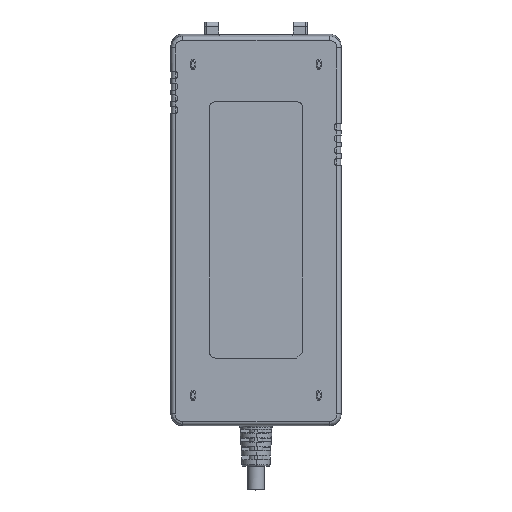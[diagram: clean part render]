
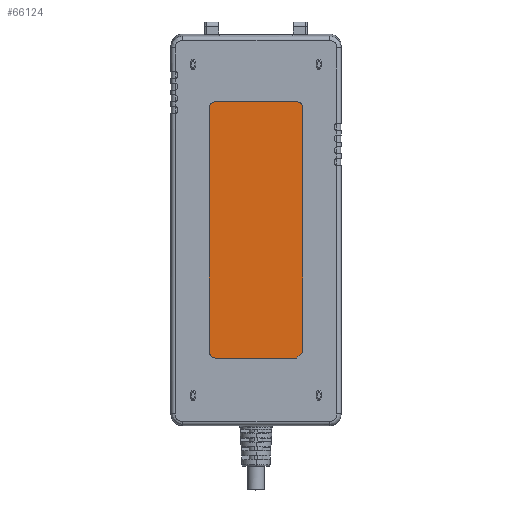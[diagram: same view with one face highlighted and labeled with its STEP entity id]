
A CAD part, top view. The second image highlights one B-rep face of the part: STEP entity #66124.
In plain terms, the highlighted free-form (B-spline) face has degree [1, 1] with [2, 2] control points.
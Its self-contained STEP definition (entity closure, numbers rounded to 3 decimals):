
#141 = ORIENTED_EDGE ( 'NONE', *, *, #94715, .T. ) ;
#2567 = ORIENTED_EDGE ( 'NONE', *, *, #32899, .T. ) ;
#3544 = B_SPLINE_SURFACE_WITH_KNOTS ( 'NONE', 1, 1, ( 
 ( #46267, #30093 ),
 ( #63555, #5055 ) ),
 .UNSPECIFIED., .F., .F., .F.,
 ( 2, 2 ),
 ( 2, 2 ),
 ( 0., 1. ),
 ( 0., 1. ),
 .UNSPECIFIED. ) ;
#5055 = CARTESIAN_POINT ( 'NONE',  ( 20., 71., 17.146 ) ) ;
#5520 = VERTEX_POINT ( 'NONE', #56644 ) ;
#6519 = VERTEX_POINT ( 'NONE', #9958 ) ;
#6527 = CARTESIAN_POINT ( 'NONE',  ( 17.5, 71., 17.146 ) ) ;
#9222 = B_SPLINE_CURVE_WITH_KNOTS ( 'NONE', 1,
 ( #13902, #62415 ),
 .UNSPECIFIED., .F., .F.,
 ( 2, 2 ),
 ( 0., 1. ),
 .UNSPECIFIED. ) ;
#9958 = CARTESIAN_POINT ( 'NONE',  ( -17.5, 71., 17.146 ) ) ;
#10262 = CARTESIAN_POINT ( 'NONE',  ( -20., -37.965, 17.146 ) ) ;
#13067 = CARTESIAN_POINT ( 'NONE',  ( 20., 68.5, 17.146 ) ) ;
#13902 = CARTESIAN_POINT ( 'NONE',  ( -17.5, -39., 17.146 ) ) ;
#17179 = CARTESIAN_POINT ( 'NONE',  ( -20., -36.5, 17.146 ) ) ;
#19029 = CARTESIAN_POINT ( 'NONE',  ( -20., 68.5, 17.146 ) ) ;
#19351 = B_SPLINE_CURVE_WITH_KNOTS ( 'NONE', 1,
 ( #25984, #86749 ),
 .UNSPECIFIED., .F., .F.,
 ( 2, 2 ),
 ( 0., 1. ),
 .UNSPECIFIED. ) ;
#19723 = CARTESIAN_POINT ( 'NONE',  ( 20., 68.5, 17.146 ) ) ;
#20266 = CARTESIAN_POINT ( 'NONE',  ( 18.965, 71., 17.146 ) ) ;
#20439 =( BOUNDED_CURVE ( )  B_SPLINE_CURVE ( 3, ( #62651, #20266, #96672, #19723 ),
 .UNSPECIFIED., .F., .F. ) 
 B_SPLINE_CURVE_WITH_KNOTS ( ( 4, 4 ),
 ( -1.571, 0. ),
 .UNSPECIFIED. ) 
 CURVE ( )  GEOMETRIC_REPRESENTATION_ITEM ( )  RATIONAL_B_SPLINE_CURVE ( ( 1., 0.805, 0.805, 1. ) ) 
 REPRESENTATION_ITEM ( '' )  );
#21304 = CARTESIAN_POINT ( 'NONE',  ( 20., -36.5, 17.146 ) ) ;
#23301 = EDGE_CURVE ( 'NONE', #5520, #100818, #79024, .T. ) ;
#24743 = EDGE_CURVE ( 'NONE', #39677, #6519, #56244, .T. ) ;
#25984 = CARTESIAN_POINT ( 'NONE',  ( 20., -36.5, 17.146 ) ) ;
#28481 = VERTEX_POINT ( 'NONE', #55826 ) ;
#30093 = CARTESIAN_POINT ( 'NONE',  ( -20., 71., 17.146 ) ) ;
#31245 = EDGE_LOOP ( 'NONE', ( #2567, #66689, #86247, #96890, #141, #97472, #54138, #37541 ) ) ;
#32899 = EDGE_CURVE ( 'NONE', #5520, #28481, #9222, .T. ) ;
#33944 = CARTESIAN_POINT ( 'NONE',  ( 17.5, -39., 17.146 ) ) ;
#37541 = ORIENTED_EDGE ( 'NONE', *, *, #23301, .F. ) ;
#39677 = VERTEX_POINT ( 'NONE', #19029 ) ;
#42447 = CARTESIAN_POINT ( 'NONE',  ( -20., 69.964, 17.146 ) ) ;
#43558 = CARTESIAN_POINT ( 'NONE',  ( -20., 68.5, 17.146 ) ) ;
#46267 = CARTESIAN_POINT ( 'NONE',  ( -20., -39., 17.146 ) ) ;
#49952 = VERTEX_POINT ( 'NONE', #21304 ) ;
#54138 = ORIENTED_EDGE ( 'NONE', *, *, #71444, .T. ) ;
#55733 = FACE_OUTER_BOUND ( 'NONE', #31245, .T. ) ;
#55826 = CARTESIAN_POINT ( 'NONE',  ( 17.5, -39., 17.146 ) ) ;
#56244 =( BOUNDED_CURVE ( )  B_SPLINE_CURVE ( 3, ( #43558, #42447, #78668, #76469 ),
 .UNSPECIFIED., .F., .F. ) 
 B_SPLINE_CURVE_WITH_KNOTS ( ( 4, 4 ),
 ( -3.142, -1.571 ),
 .UNSPECIFIED. ) 
 CURVE ( )  GEOMETRIC_REPRESENTATION_ITEM ( )  RATIONAL_B_SPLINE_CURVE ( ( 1., 0.805, 0.805, 1. ) ) 
 REPRESENTATION_ITEM ( '' )  );
#56644 = CARTESIAN_POINT ( 'NONE',  ( -17.5, -39., 17.146 ) ) ;
#58205 = B_SPLINE_CURVE_WITH_KNOTS ( 'NONE', 1,
 ( #93631, #33944 ),
 .UNSPECIFIED., .F., .F.,
 ( 2, 2 ),
 ( 0., 1. ),
 .UNSPECIFIED. ) ;
#59866 = CARTESIAN_POINT ( 'NONE',  ( -17.5, -39., 17.146 ) ) ;
#61636 = EDGE_CURVE ( 'NONE', #84988, #105595, #20439, .T. ) ;
#62415 = CARTESIAN_POINT ( 'NONE',  ( 17.5, -39., 17.146 ) ) ;
#62651 = CARTESIAN_POINT ( 'NONE',  ( 17.5, 71., 17.146 ) ) ;
#63555 = CARTESIAN_POINT ( 'NONE',  ( 20., -39., 17.146 ) ) ;
#65438 = B_SPLINE_CURVE_WITH_KNOTS ( 'NONE', 1,
 ( #94687, #17179 ),
 .UNSPECIFIED., .F., .F.,
 ( 2, 2 ),
 ( 0., 1. ),
 .UNSPECIFIED. ) ;
#66059 = CARTESIAN_POINT ( 'NONE',  ( -20., -36.5, 17.146 ) ) ;
#66124 = ADVANCED_FACE ( 'NONE', ( #55733 ), #3544, .T. ) ;
#66689 = ORIENTED_EDGE ( 'NONE', *, *, #78707, .F. ) ;
#69442 = EDGE_CURVE ( 'NONE', #49952, #105595, #19351, .T. ) ;
#71444 = EDGE_CURVE ( 'NONE', #39677, #100818, #65438, .T. ) ;
#76469 = CARTESIAN_POINT ( 'NONE',  ( -17.5, 71., 17.146 ) ) ;
#78668 = CARTESIAN_POINT ( 'NONE',  ( -18.964, 71., 17.146 ) ) ;
#78707 = EDGE_CURVE ( 'NONE', #49952, #28481, #58205, .T. ) ;
#78770 = CARTESIAN_POINT ( 'NONE',  ( -20., -36.5, 17.146 ) ) ;
#79024 =( BOUNDED_CURVE ( )  B_SPLINE_CURVE ( 3, ( #59866, #95528, #10262, #78770 ),
 .UNSPECIFIED., .F., .F. ) 
 B_SPLINE_CURVE_WITH_KNOTS ( ( 4, 4 ),
 ( -4.712, -3.142 ),
 .UNSPECIFIED. ) 
 CURVE ( )  GEOMETRIC_REPRESENTATION_ITEM ( )  RATIONAL_B_SPLINE_CURVE ( ( 1., 0.805, 0.805, 1. ) ) 
 REPRESENTATION_ITEM ( '' )  );
#82384 = CARTESIAN_POINT ( 'NONE',  ( 17.5, 71., 17.146 ) ) ;
#84988 = VERTEX_POINT ( 'NONE', #6527 ) ;
#86247 = ORIENTED_EDGE ( 'NONE', *, *, #69442, .T. ) ;
#86749 = CARTESIAN_POINT ( 'NONE',  ( 20., 68.5, 17.146 ) ) ;
#93631 = CARTESIAN_POINT ( 'NONE',  ( 20., -36.5, 17.146 ) ) ;
#94687 = CARTESIAN_POINT ( 'NONE',  ( -20., 68.5, 17.146 ) ) ;
#94715 = EDGE_CURVE ( 'NONE', #84988, #6519, #108075, .T. ) ;
#95528 = CARTESIAN_POINT ( 'NONE',  ( -18.964, -39., 17.146 ) ) ;
#96672 = CARTESIAN_POINT ( 'NONE',  ( 20., 69.964, 17.146 ) ) ;
#96890 = ORIENTED_EDGE ( 'NONE', *, *, #61636, .F. ) ;
#97472 = ORIENTED_EDGE ( 'NONE', *, *, #24743, .F. ) ;
#100818 = VERTEX_POINT ( 'NONE', #66059 ) ;
#105595 = VERTEX_POINT ( 'NONE', #13067 ) ;
#108068 = CARTESIAN_POINT ( 'NONE',  ( -17.5, 71., 17.146 ) ) ;
#108075 = B_SPLINE_CURVE_WITH_KNOTS ( 'NONE', 1,
 ( #82384, #108068 ),
 .UNSPECIFIED., .F., .F.,
 ( 2, 2 ),
 ( 0., 1. ),
 .UNSPECIFIED. ) ;
